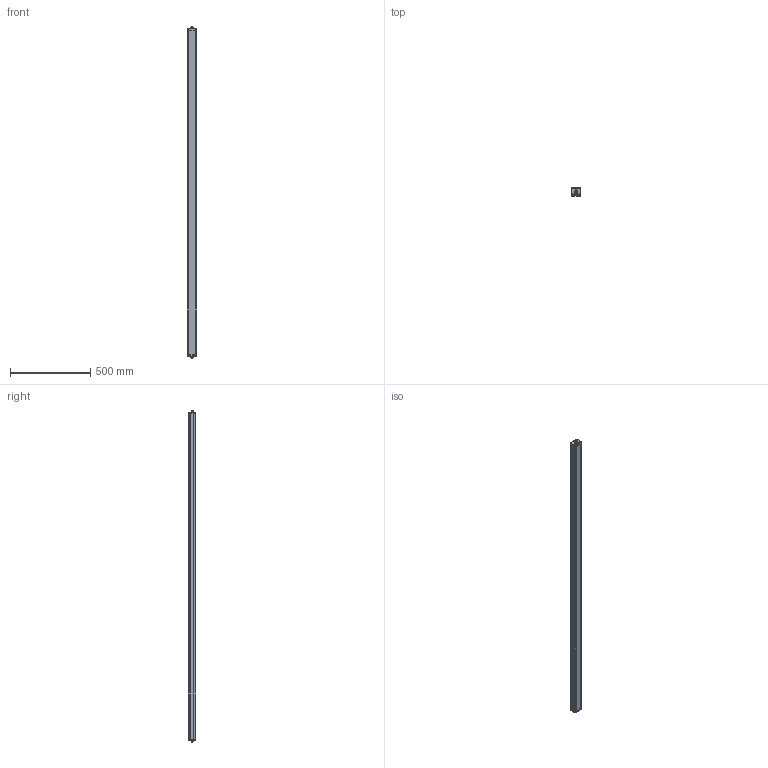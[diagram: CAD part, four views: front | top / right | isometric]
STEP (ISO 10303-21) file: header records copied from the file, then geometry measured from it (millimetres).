
FILE_DESCRIPTION (( 'STEP AP214' ), '1' );
FILE_NAME ('EFFI-FLEX-LG-2000-ZZZ-WW-PP-CHAIN.STEP', '2021-05-27T14:59:52', ( '' ), ( '' ), 'SwSTEP 2.0', 'SolidWorks 2021', '' );
FILE_SCHEMA (( 'AUTOMOTIVE_DESIGN' ));
Length unit declared in the file: millimetre
Products named in the file (7): 017964; EFFI-FLEX-LG-2000-ZZZ-WW-PP-CHAIN; 017772B123; 001111; ECROU M16x1.5; 000104; 018003
Assembly tree (13 placements, depth 2):
  EFFI-FLEX-LG-2000-ZZZ-WW-PP-CHAIN
    017772B123
    017964  x2
    000104
    018003  x7
    001111
    ECROU M16x1.5
Bounding box: 60.01 x 47.12 x 2064 mm (x, y, z)
Volume: 4960306.6 mm3; surface area: 581992.3 mm2
Topology: 15 solids, 15 shells, 1939 faces, 4910 edges, 3104 vertices
Faces by surface type: plane 925, cylinder 514, bspline 210, cone 130, torus 110, sphere 50
Entity records: 47411 total; most frequent: CARTESIAN_POINT 13668, ORIENTED_EDGE 6484, DIRECTION 5772, EDGE_CURVE 3242, VERTEX_POINT 2106, AXIS2_PLACEMENT_3D 1956, VECTOR 1860, LINE 1860
